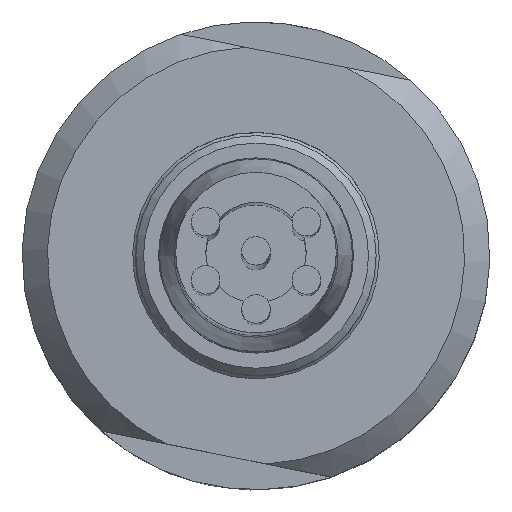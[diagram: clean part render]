
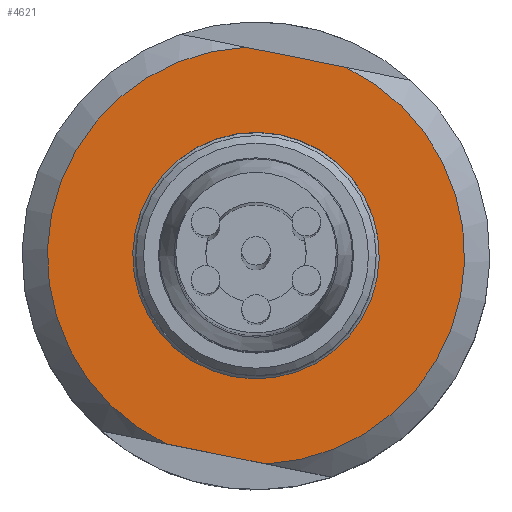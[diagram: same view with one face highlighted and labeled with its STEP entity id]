
A CAD part, top view. The second image highlights one B-rep face of the part: STEP entity #4621.
In plain terms, the highlighted planar face has unit normal (0, 0, 1).
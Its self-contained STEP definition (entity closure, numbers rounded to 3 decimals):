
#13 = DIRECTION ( 'NONE',  ( -0.98, 0.197, 0. ) ) ;
#15 = CIRCLE ( 'NONE', #2897, 8.25 ) ;
#48 = VERTEX_POINT ( 'NONE', #3364 ) ;
#65 = DIRECTION ( 'NONE',  ( 0., 0., -1. ) ) ;
#67 = VERTEX_POINT ( 'NONE', #1339 ) ;
#105 = AXIS2_PLACEMENT_3D ( 'NONE', #412, #2727, #441 ) ;
#160 = AXIS2_PLACEMENT_3D ( 'NONE', #515, #2088, #3667 ) ;
#223 = FACE_BOUND ( 'NONE', #4264, .T. ) ;
#412 = CARTESIAN_POINT ( 'NONE',  ( 1.624, 8.089, 20.3 ) ) ;
#416 = EDGE_CURVE ( 'NONE', #67, #3166, #1477, .T. ) ;
#441 = DIRECTION ( 'NONE',  ( 0.98, -0.197, 0. ) ) ;
#498 = CARTESIAN_POINT ( 'NONE',  ( -21.041, 12.383, 20.3 ) ) ;
#515 = CARTESIAN_POINT ( 'NONE',  ( 0., 0., 20.3 ) ) ;
#531 = EDGE_CURVE ( 'NONE', #4463, #48, #15, .T. ) ;
#595 = EDGE_CURVE ( 'NONE', #4463, #3166, #5034, .T. ) ;
#598 = CARTESIAN_POINT ( 'NONE',  ( -4.78, 0.959, 20.3 ) ) ;
#774 = CARTESIAN_POINT ( 'NONE',  ( -24.19, -3.304, 20.3 ) ) ;
#1339 = CARTESIAN_POINT ( 'NONE',  ( 3.551, 7.447, 20.3 ) ) ;
#1368 = DIRECTION ( 'NONE',  ( 0., 0., -1. ) ) ;
#1477 = CIRCLE ( 'NONE', #3558, 8.25 ) ;
#1725 = ORIENTED_EDGE ( 'NONE', *, *, #531, .F. ) ;
#2088 = DIRECTION ( 'NONE',  ( 0., 0., -1. ) ) ;
#2118 = CARTESIAN_POINT ( 'NONE',  ( -3.551, -7.447, 20.3 ) ) ;
#2321 = CARTESIAN_POINT ( 'NONE',  ( 0.402, -8.24, 20.3 ) ) ;
#2324 = EDGE_CURVE ( 'NONE', #67, #48, #3243, .T. ) ;
#2396 = EDGE_LOOP ( 'NONE', ( #1725, #3437, #3728, #4165 ) ) ;
#2434 = DIRECTION ( 'NONE',  ( 0.98, -0.197, 0. ) ) ;
#2469 = VECTOR ( 'NONE', #4769, 1000. ) ;
#2727 = DIRECTION ( 'NONE',  ( 0., 0., 1. ) ) ;
#2897 = AXIS2_PLACEMENT_3D ( 'NONE', #3125, #65, #13 ) ;
#3034 = CIRCLE ( 'NONE', #160, 4.875 ) ;
#3085 = EDGE_CURVE ( 'NONE', #4497, #4497, #3034, .T. ) ;
#3125 = CARTESIAN_POINT ( 'NONE',  ( 0., 0., 20.3 ) ) ;
#3166 = VERTEX_POINT ( 'NONE', #2321 ) ;
#3169 = PLANE ( 'NONE',  #105 ) ;
#3243 = LINE ( 'NONE', #498, #2469 ) ;
#3364 = CARTESIAN_POINT ( 'NONE',  ( -0.402, 8.24, 20.3 ) ) ;
#3372 = DIRECTION ( 'NONE',  ( -0.98, 0.197, 0. ) ) ;
#3437 = ORIENTED_EDGE ( 'NONE', *, *, #595, .T. ) ;
#3558 = AXIS2_PLACEMENT_3D ( 'NONE', #4474, #1368, #3372 ) ;
#3667 = DIRECTION ( 'NONE',  ( -0.98, 0.197, 0. ) ) ;
#3728 = ORIENTED_EDGE ( 'NONE', *, *, #416, .F. ) ;
#4165 = ORIENTED_EDGE ( 'NONE', *, *, #2324, .T. ) ;
#4196 = VECTOR ( 'NONE', #2434, 1000. ) ;
#4264 = EDGE_LOOP ( 'NONE', ( #4875 ) ) ;
#4463 = VERTEX_POINT ( 'NONE', #2118 ) ;
#4474 = CARTESIAN_POINT ( 'NONE',  ( 0., 0., 20.3 ) ) ;
#4497 = VERTEX_POINT ( 'NONE', #598 ) ;
#4621 = ADVANCED_FACE ( 'NONE', ( #223, #5054 ), #3169, .T. ) ;
#4769 = DIRECTION ( 'NONE',  ( -0.98, 0.197, 0. ) ) ;
#4875 = ORIENTED_EDGE ( 'NONE', *, *, #3085, .T. ) ;
#5034 = LINE ( 'NONE', #774, #4196 ) ;
#5054 = FACE_OUTER_BOUND ( 'NONE', #2396, .T. ) ;
